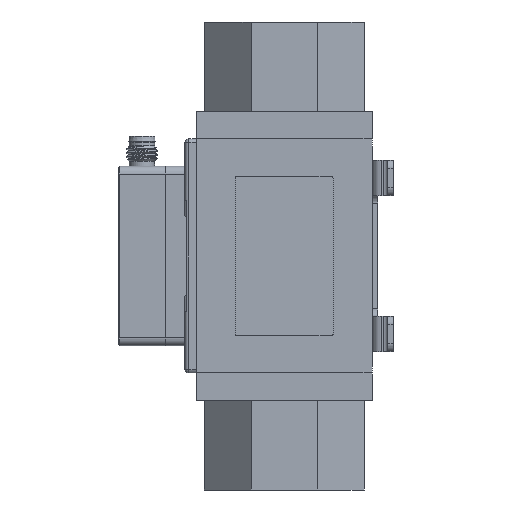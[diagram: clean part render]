
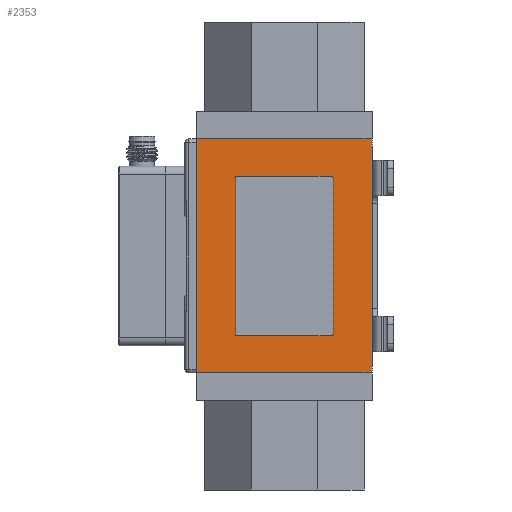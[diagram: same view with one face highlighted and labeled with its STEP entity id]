
A CAD part, front view. The second image highlights one B-rep face of the part: STEP entity #2353.
In plain terms, the highlighted planar face has unit normal (0, -1, 0).
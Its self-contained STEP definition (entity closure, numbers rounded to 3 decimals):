
#1046=FACE_BOUND('',#5478,.T.);
#1047=FACE_BOUND('',#5479,.T.);
#1518=CIRCLE('',#22881,0.5);
#1519=CIRCLE('',#22882,0.5);
#1520=CIRCLE('',#22883,0.5);
#1521=CIRCLE('',#22884,0.5);
#2353=ADVANCED_FACE('',(#1046,#1047),#3333,.T.);
#3333=PLANE('',#22885);
#5478=EDGE_LOOP('',(#9358,#9359,#9360,#9361));
#5479=EDGE_LOOP('',(#9362,#9363,#9364,#9365,#9366,#9367,#9368,#9369));
#9358=ORIENTED_EDGE('',*,*,#16137,.T.);
#9359=ORIENTED_EDGE('',*,*,#16056,.T.);
#9360=ORIENTED_EDGE('',*,*,#16138,.F.);
#9361=ORIENTED_EDGE('',*,*,#15859,.F.);
#9362=ORIENTED_EDGE('',*,*,#16131,.F.);
#9363=ORIENTED_EDGE('',*,*,#16139,.F.);
#9364=ORIENTED_EDGE('',*,*,#16140,.F.);
#9365=ORIENTED_EDGE('',*,*,#16141,.F.);
#9366=ORIENTED_EDGE('',*,*,#16127,.F.);
#9367=ORIENTED_EDGE('',*,*,#16142,.F.);
#9368=ORIENTED_EDGE('',*,*,#16143,.F.);
#9369=ORIENTED_EDGE('',*,*,#16144,.F.);
#13321=VERTEX_POINT('',#34979);
#13322=VERTEX_POINT('',#34981);
#13505=VERTEX_POINT('',#35373);
#13506=VERTEX_POINT('',#35374);
#13555=VERTEX_POINT('',#35805);
#13556=VERTEX_POINT('',#35806);
#13557=VERTEX_POINT('',#35811);
#13558=VERTEX_POINT('',#35813);
#13563=VERTEX_POINT('',#35828);
#13564=VERTEX_POINT('',#35830);
#13565=VERTEX_POINT('',#35833);
#13566=VERTEX_POINT('',#35835);
#15859=EDGE_CURVE('',#13321,#13322,#18521,.T.);
#16056=EDGE_CURVE('',#13505,#13506,#18718,.T.);
#16127=EDGE_CURVE('',#13555,#13556,#18757,.T.);
#16131=EDGE_CURVE('',#13557,#13558,#18761,.T.);
#16137=EDGE_CURVE('',#13321,#13505,#18767,.T.);
#16138=EDGE_CURVE('',#13322,#13506,#18768,.T.);
#16139=EDGE_CURVE('',#13563,#13557,#1518,.T.);
#16140=EDGE_CURVE('',#13564,#13563,#18769,.T.);
#16141=EDGE_CURVE('',#13556,#13564,#1519,.T.);
#16142=EDGE_CURVE('',#13565,#13555,#1520,.T.);
#16143=EDGE_CURVE('',#13566,#13565,#18770,.T.);
#16144=EDGE_CURVE('',#13558,#13566,#1521,.T.);
#18521=LINE('',#34980,#20920);
#18718=LINE('',#35372,#21117);
#18757=LINE('',#35804,#21156);
#18761=LINE('',#35812,#21160);
#18767=LINE('',#35825,#21166);
#18768=LINE('',#35826,#21167);
#18769=LINE('',#35829,#21168);
#18770=LINE('',#35834,#21169);
#20920=VECTOR('',#26217,1.);
#21117=VECTOR('',#26438,1.);
#21156=VECTOR('',#26539,1.);
#21160=VECTOR('',#26545,1.);
#21166=VECTOR('',#26555,1.);
#21167=VECTOR('',#26556,1.);
#21168=VECTOR('',#26559,1.);
#21169=VECTOR('',#26564,1.);
#22881=AXIS2_PLACEMENT_3D('',#35827,#26557,#26558);
#22882=AXIS2_PLACEMENT_3D('',#35831,#26560,#26561);
#22883=AXIS2_PLACEMENT_3D('',#35832,#26562,#26563);
#22884=AXIS2_PLACEMENT_3D('',#35836,#26565,#26566);
#22885=AXIS2_PLACEMENT_3D('',#35837,#26567,#26568);
#26217=DIRECTION('',(0.,0.,1.));
#26438=DIRECTION('',(0.,0.,1.));
#26539=DIRECTION('',(0.,0.,-1.));
#26545=DIRECTION('',(0.,0.,1.));
#26555=DIRECTION('',(1.,0.,0.));
#26556=DIRECTION('',(1.,0.,0.));
#26557=DIRECTION('',(0.,-1.,0.));
#26558=DIRECTION('',(0.,0.,1.));
#26559=DIRECTION('',(1.,0.,0.));
#26560=DIRECTION('',(0.,-1.,0.));
#26561=DIRECTION('',(0.,0.,1.));
#26562=DIRECTION('',(0.,-1.,0.));
#26563=DIRECTION('',(0.,0.,1.));
#26564=DIRECTION('',(-1.,0.,0.));
#26565=DIRECTION('',(0.,-1.,0.));
#26566=DIRECTION('',(0.,0.,1.));
#26567=DIRECTION('',(0.,-1.,0.));
#26568=DIRECTION('',(1.,0.,0.));
#34979=CARTESIAN_POINT('',(-0.5,-0.5,-68.));
#34980=CARTESIAN_POINT('',(-0.5,-0.5,-78.));
#34981=CARTESIAN_POINT('',(-0.5,-0.5,-8.));
#35372=CARTESIAN_POINT('',(44.5,-0.5,-78.));
#35373=CARTESIAN_POINT('',(44.5,-0.5,-68.));
#35374=CARTESIAN_POINT('',(44.5,-0.5,-8.));
#35804=CARTESIAN_POINT('',(9.5,-0.5,-18.));
#35805=CARTESIAN_POINT('',(9.5,-0.5,-18.));
#35806=CARTESIAN_POINT('',(9.5,-0.5,-58.));
#35811=CARTESIAN_POINT('',(34.5,-0.5,-58.));
#35812=CARTESIAN_POINT('',(34.5,-0.5,-68.));
#35813=CARTESIAN_POINT('',(34.5,-0.5,-18.));
#35825=CARTESIAN_POINT('',(-0.5,-0.5,-68.));
#35826=CARTESIAN_POINT('',(-0.5,-0.5,-8.));
#35827=CARTESIAN_POINT('',(34.,-0.5,-58.));
#35828=CARTESIAN_POINT('',(34.,-0.5,-58.5));
#35829=CARTESIAN_POINT('',(10.,-0.5,-58.5));
#35830=CARTESIAN_POINT('',(10.,-0.5,-58.5));
#35831=CARTESIAN_POINT('',(10.,-0.5,-58.));
#35832=CARTESIAN_POINT('',(10.,-0.5,-18.));
#35833=CARTESIAN_POINT('',(10.,-0.5,-17.5));
#35834=CARTESIAN_POINT('',(34.,-0.5,-17.5));
#35835=CARTESIAN_POINT('',(34.,-0.5,-17.5));
#35836=CARTESIAN_POINT('',(34.,-0.5,-18.));
#35837=CARTESIAN_POINT('',(-0.5,-0.5,-78.));
